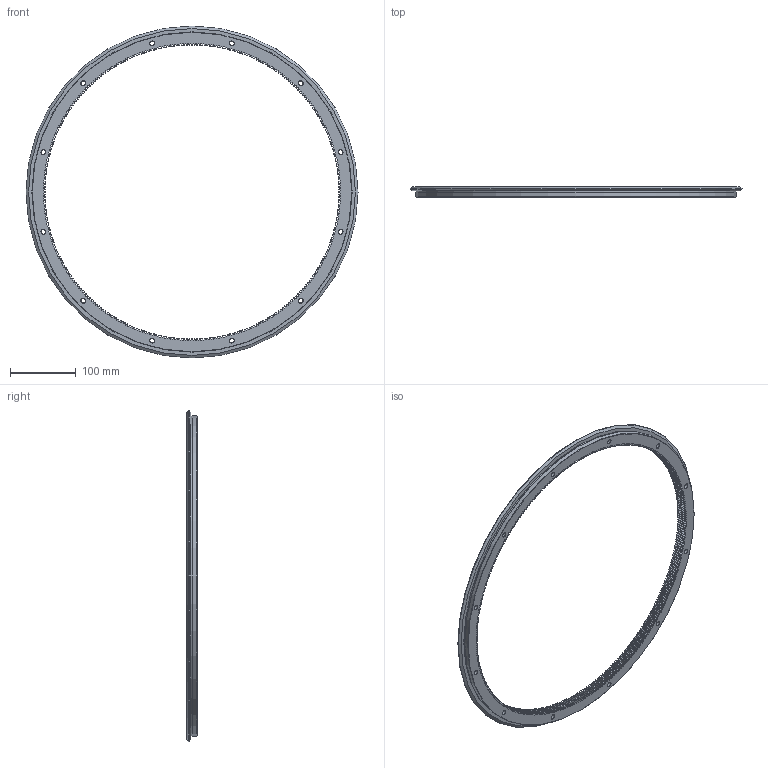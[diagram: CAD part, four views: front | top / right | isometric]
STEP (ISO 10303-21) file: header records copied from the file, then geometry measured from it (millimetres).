
FILE_DESCRIPTION( ( 'STEP AP203' ), '1' );
FILE_NAME( 'p:/temp/worker_47/temp/exporttempdir_7100_922_QCUqB/format_0/REM 505 R360 Q.stp', '2021-08-30T05:10:40', ( 'License CC BY-ND 4.0' ), ( 'CADENAS' ), ' ', 'PARTsolutions', ' ' );
FILE_SCHEMA( ( 'CONFIG_CONTROL_DESIGN' ) );
Length unit declared in the file: millimetre
Products named in the file (1): _REM 505 R360 Q
Bounding box: 505.5 x 15.5 x 505.5 mm (x, y, z)
Volume: 484193.5 mm3; surface area: 148351.6 mm2
Topology: 1 solids, 1 shells, 1858 faces, 5511 edges, 3669 vertices
Faces by surface type: cylinder 746, plane 736, cone 375, torus 1
Full cylindrical faces by diameter (mm): 6.8 x12, 11 x12, 486.3 x1, 487.5 x1
Entity records: 63306 total; most frequent: CARTESIAN_POINT 13170, ORIENTED_EDGE 10938, DIRECTION 10336, EDGE_CURVE 5469, AXIS2_PLACEMENT_3D 3728, VERTEX_POINT 3670, LINE 2880, VECTOR 2880
